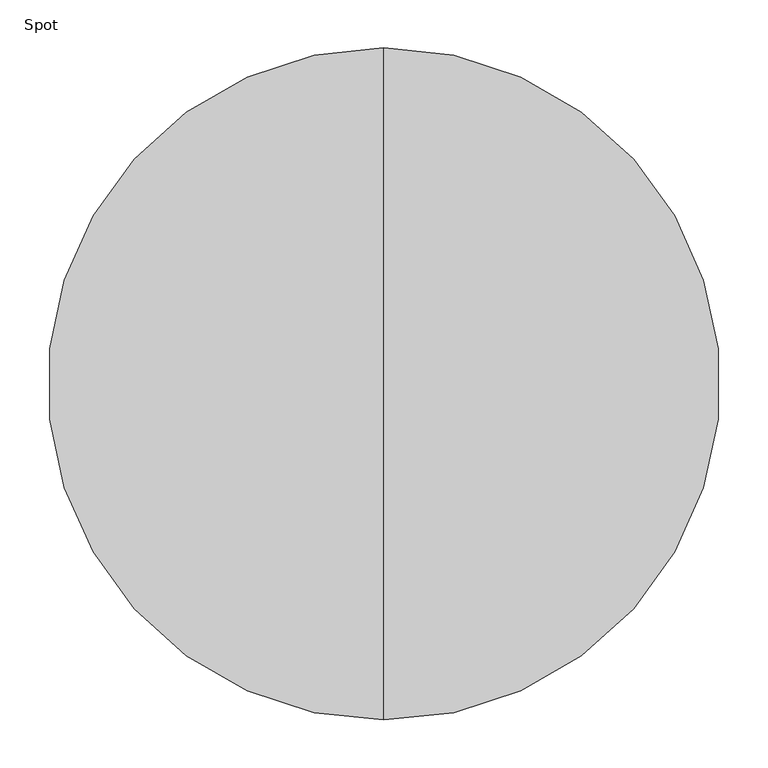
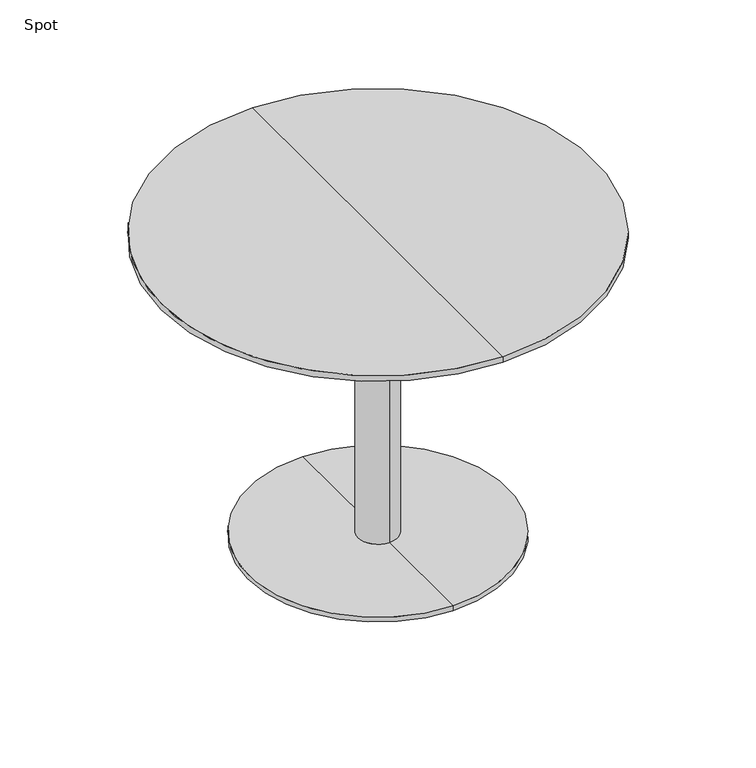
"""IFC4 building model written with IfcOpenShell, lengths in millimetres: furniture geometry, Spot : ø70x52."""

from ifc_helpers import new_model, si_unit, frame, origin, place, context, project, spatial, polyline, circle_curve, source, transform, mapped, element, save
from ifc_brep_helpers import plane_surface, cylinder_surface, revolved_surface, advanced_brep


def spot_5c1fb740(model_context):
    return source(origin(), model_context, "Body", "AdvancedBrep", [
        advanced_brep(
        [(0.0, -350.0, 520.0), (0.0, 350.0, 520.0), (0.0, 0.0, 520.0), (0.0, 350.0, 510.25), (0.0, -350.0, 510.25), (0.0, 0.0, 498.0), (0.0, -304.2823776, 498.0), (0.0, 304.2823776, 498.0)],
        [
            (0, 1, circle_curve(frame((0.0, 0.0, 520.0), z_axis=(0.0, 0.0, 1.0), x_axis=(0.0, -1.0, 0.0)), 350.0)),
            (1, 2),
            (2, 0),
            (3, 4, circle_curve(frame((0.0, 0.0, 510.25), z_axis=(0.0, 0.0, 1.0), x_axis=(0.0, -1.0, 0.0)), 350.0)),
            (4, 0),
            (0, 1, circle_curve(frame((0.0, 0.0, 520.0), z_axis=(0.0, 0.0, -1.0), x_axis=(0.0, -1.0, 0.0)), 350.0)),
            (1, 3),
            (5, 6),
            (6, 7, circle_curve(frame((0.0, 0.0, 498.0), z_axis=(0.0, 0.0, -1.0), x_axis=(0.0, -1.0, 0.0)), 304.2823776)),
            (7, 5),
            (7, 6, circle_curve(frame((0.0, 0.0, 498.0), z_axis=(0.0, 0.0, -1.0), x_axis=(0.0, -1.0, 0.0)), 304.2823776)),
            (4, 3, circle_curve(frame((0.0, 0.0, 510.25), z_axis=(0.0, 0.0, 1.0), x_axis=(0.0, -1.0, 0.0)), 350.0)),
            (6, 4),
            (3, 7),
        ],
        [
            plane_surface(frame((0.0, 0.0, 520.0), z_axis=(0.0, 0.0, 1.0), x_axis=(0.0, -1.0, 0.0))),
            cylinder_surface(frame((0.0, 0.0, 600.0), z_axis=(0.0, 0.0, -1.0), x_axis=(0.0, -1.0, 0.0)), 350.0),
            plane_surface(frame((0.0, 0.0, 498.0), z_axis=(0.0, 0.0, -1.0), x_axis=(0.0, -1.0, 0.0))),
            revolved_surface(polyline([(0.0, -350.0, 510.25), (0.0, -304.2823776, 498.0)]), (0.0, 0.0, 600.0), (0.0, 0.0, -1.0)),
        ],
        [
            (0, [[1, 2, 3]]),
            (1, [[4, 5, 6, 7]]),
            (2, [[8, 9, 10]]),
            (2, [[-10, 11, -8]]),
            (0, [[-6, -3, -2]]),
            (1, [[12, -7, -1, -5]]),
            (3, [[-9, 13, -4, 14]]),
            (3, [[-11, -14, -12, -13]]),
        ],
    ),
        advanced_brep(
        [(0.0, 32.0, 10.0), (0.0, -32.0, 10.0), (0.0, -32.0, 467.406916), (0.0, 32.0, 467.406916), (0.0, 210.0, 10.0), (0.0, -210.0, 10.0), (0.0, 210.0, 2.0), (0.0, -210.0, 2.0), (0.0, 0.0, 2.0), (0.0, 150.0, 498.0), (0.0, -150.0, 498.0), (0.0, 0.0, 498.0), (0.0, 150.0, 486.7213673), (0.0, -150.0, 486.7213673)],
        [
            (0, 1, circle_curve(frame((0.0, 0.0, 10.0), z_axis=(0.0, 0.0, 1.0), x_axis=(0.0, -1.0, 0.0)), 32.0)),
            (1, 2),
            (2, 3, circle_curve(frame((0.0, 0.0, 467.406916), z_axis=(0.0, 0.0, -1.0), x_axis=(0.0, -1.0, 0.0)), 32.0)),
            (3, 0),
            (1, 0, circle_curve(frame((0.0, 0.0, 10.0), z_axis=(0.0, 0.0, 1.0), x_axis=(0.0, -1.0, 0.0)), 32.0)),
            (3, 2, circle_curve(frame((0.0, 0.0, 467.406916), z_axis=(0.0, 0.0, -1.0), x_axis=(0.0, -1.0, 0.0)), 32.0)),
            (4, 5, circle_curve(frame((0.0, 0.0, 10.0), z_axis=(0.0, 0.0, 1.0), x_axis=(0.0, -1.0, 0.0)), 210.0)),
            (5, 1),
            (0, 4),
            (5, 4, circle_curve(frame((0.0, 0.0, 10.0), z_axis=(0.0, 0.0, 1.0), x_axis=(0.0, -1.0, 0.0)), 210.0)),
            (6, 7, circle_curve(frame((0.0, 0.0, 2.0), z_axis=(0.0, 0.0, 1.0), x_axis=(0.0, -1.0, 0.0)), 210.0)),
            (7, 5),
            (4, 6),
            (7, 6, circle_curve(frame((0.0, 0.0, 2.0), z_axis=(0.0, 0.0, 1.0), x_axis=(0.0, -1.0, 0.0)), 210.0)),
            (8, 7),
            (6, 8),
            (9, 10, circle_curve(frame((0.0, 0.0, 498.0), z_axis=(0.0, 0.0, 1.0), x_axis=(0.0, -1.0, 0.0)), 150.0)),
            (10, 11),
            (11, 9),
            (10, 9, circle_curve(frame((0.0, 0.0, 498.0), z_axis=(0.0, 0.0, 1.0), x_axis=(0.0, -1.0, 0.0)), 150.0)),
            (12, 13, circle_curve(frame((0.0, 0.0, 486.7213673), z_axis=(0.0, 0.0, 1.0), x_axis=(0.0, -1.0, 0.0)), 150.0)),
            (13, 10),
            (9, 12),
            (13, 12, circle_curve(frame((0.0, 0.0, 486.7213673), z_axis=(0.0, 0.0, 1.0), x_axis=(0.0, -1.0, 0.0)), 150.0)),
            (2, 13),
            (12, 3),
        ],
        [
            cylinder_surface(frame((0.0, 0.0, 860.0), z_axis=(0.0, 0.0, -1.0), x_axis=(0.0, -1.0, 0.0)), 32.0),
            plane_surface(frame((0.0, 0.0, 10.0), z_axis=(0.0, 0.0, 1.0), x_axis=(0.0, -1.0, 0.0))),
            cylinder_surface(frame((0.0, 0.0, 860.0), z_axis=(0.0, 0.0, -1.0), x_axis=(0.0, -1.0, 0.0)), 210.0),
            plane_surface(frame((0.0, 0.0, 2.0), z_axis=(0.0, 0.0, -1.0), x_axis=(0.0, -1.0, 0.0))),
            plane_surface(frame((0.0, 0.0, 498.0), z_axis=(0.0, 0.0, 1.0), x_axis=(0.0, -1.0, 0.0))),
            cylinder_surface(frame((0.0, 0.0, 860.0), z_axis=(0.0, 0.0, -1.0), x_axis=(0.0, -1.0, 0.0)), 150.0),
            revolved_surface(polyline([(0.0, -150.0, 486.7213673), (0.0, -32.0, 467.406916)]), (0.0, 0.0, 860.0), (0.0, 0.0, -1.0)),
        ],
        [
            (0, [[1, 2, 3, 4]]),
            (0, [[5, -4, 6, -2]]),
            (1, [[7, 8, -1, 9]]),
            (1, [[10, -9, -5, -8]]),
            (2, [[11, 12, -7, 13]]),
            (2, [[14, -13, -10, -12]]),
            (3, [[15, -11, 16]]),
            (3, [[-16, -14, -15]]),
            (4, [[17, 18, 19]]),
            (4, [[20, -19, -18]]),
            (5, [[21, 22, -17, 23]]),
            (5, [[24, -23, -20, -22]]),
            (6, [[-3, 25, -21, 26]]),
            (6, [[-6, -26, -24, -25]]),
        ],
    ),
    ])


if __name__ == "__main__":
    model = new_model("IFC4")
    model_context = context("Model", 3, world=origin())
    ifc_project = project(units=[si_unit("LENGTHUNIT", "METRE", prefix="MILLI")], contexts=[model_context])
    site = spatial("IfcSite", under=ifc_project)
    building = spatial("IfcBuilding", under=site)
    placement = place(None, origin())
    spot_shape = spot_5c1fb740(model_context)
    element("IfcFurniture", 1, ObjectType="Spot : ø70x52", at=placement, inside=building, context=model_context, shape_type="MappedRepresentation", body=[
        mapped(spot_shape, transform((0.0, 0.0, 0.0), x_axis=(1.0, 0.0, 0.0), y_axis=(0.0, 1.0, 0.0), z_axis=(0.0, 0.0, 1.0))),
    ])
    save(model, "model.ifc")
